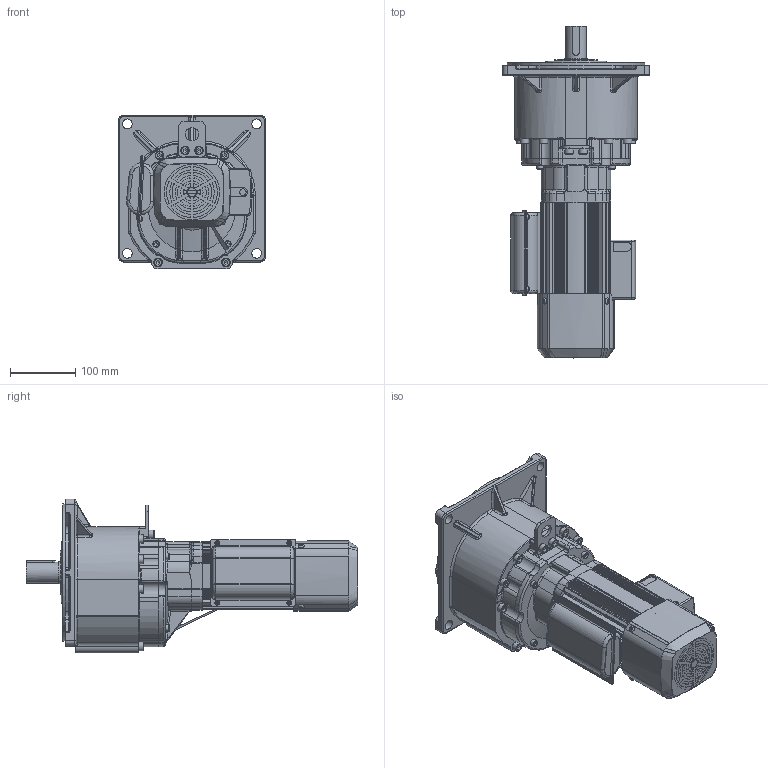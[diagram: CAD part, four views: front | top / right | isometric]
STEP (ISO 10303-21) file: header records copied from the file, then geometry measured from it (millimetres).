
FILE_DESCRIPTION( ( 'Unknown' ), '1' );
FILE_NAME( 'W:/gm/3D-WEB/GM-SS(単相)/完成品/パーツ/完成品/完成品(GM-SS_ﾌﾗﾝｼﾞ取付_0.2kW_ﾌﾞﾚｰｷ付き_GM).stp', 'Unknown', ( 'Unknown' ), ( 'Unknown' ), 'PSStep 11.0', 'Unknown', ' ' );
FILE_SCHEMA( ( 'AUTOMOTIVE_DESIGN { 1 0 10303 214 1 1 1 1 }' ) );
Length unit declared in the file: millimetre
Products named in the file (7): P264972_端子箱ｹｰｽ+PF03388_端子箱ｶﾊﾞｰ(ﾌﾞ
Bounding box: 225 x 508 x 235.5 mm (x, y, z)
Volume: 6606312.3 mm3; surface area: 721602.6 mm2
Topology: 7 solids, 43 shells, 2297 faces, 5756 edges, 3602 vertices
Faces by surface type: cylinder 908, plane 857, torus 227, bspline 181, cone 86, sphere 32, offset 6
Full cylindrical faces by diameter (mm): 3.3 x6, 3.8 x8, 4 x4, 4.134 x8, 4.5 x8, 4.8 x10, 5 x2, 6 x4, 6.8 x9, 7 x14, 8 x12, 8.2 x1, 8.5 x2, 9 x8, 10 x15, 12 x1, 13 x10, 14 x1, 15 x5, 16 x1, 20 x1, 32 x1, 34 x1, 34.5 x1, 35 x3, 42 x2, 46 x1, 47 x2, 67 x1, 85 x1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
Entity records: 112828 total; most frequent: CARTESIAN_POINT 41236, DIRECTION 11321, ORIENTED_EDGE 10662, EDGE_CURVE 5331, AXIS2_PLACEMENT_3D 4540, VERTEX_POINT 3488, EDGE_LOOP 2694, FACE_OUTER_BOUND 2475
